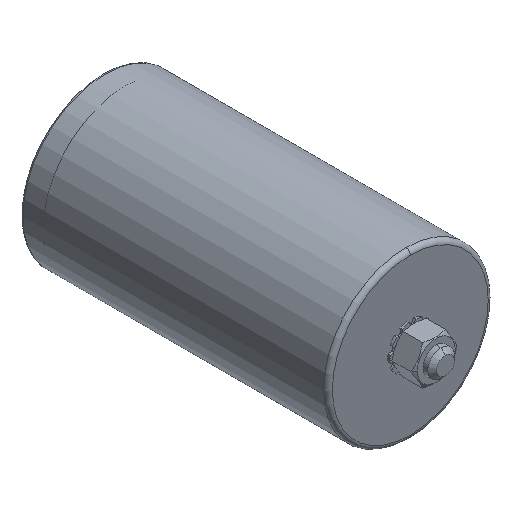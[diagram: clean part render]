
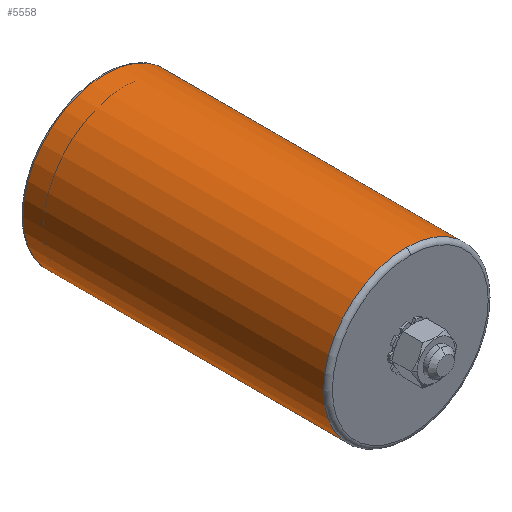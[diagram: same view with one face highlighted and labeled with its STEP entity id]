
A CAD part, isometric view. The second image highlights one B-rep face of the part: STEP entity #5558.
In plain terms, the highlighted cylindrical face has radius 37.5 mm (diameter 75 mm), a partial arc.
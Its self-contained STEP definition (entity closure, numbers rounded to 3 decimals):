
#185 = ORIENTED_EDGE ( 'NONE', *, *, #3175, .T. ) ;
#347 = DIRECTION ( 'NONE',  ( 0., 1., 0. ) ) ;
#396 = VERTEX_POINT ( 'NONE', #4683 ) ;
#1095 = CARTESIAN_POINT ( 'NONE',  ( 0., -129.645, 0. ) ) ;
#1205 = DIRECTION ( 'NONE',  ( 0., 1., 0. ) ) ;
#1214 = CARTESIAN_POINT ( 'NONE',  ( 0., 7.355, 0. ) ) ;
#1249 = DIRECTION ( 'NONE',  ( 0., 1., 0. ) ) ;
#1371 = CIRCLE ( 'NONE', #7437, 37.5 ) ;
#1518 = ORIENTED_EDGE ( 'NONE', *, *, #6113, .T. ) ;
#1708 = EDGE_CURVE ( 'NONE', #6337, #6965, #4797, .T. ) ;
#2126 = VERTEX_POINT ( 'NONE', #2171 ) ;
#2171 = CARTESIAN_POINT ( 'NONE',  ( -24.105, 7.355, -28.727 ) ) ;
#3019 = ORIENTED_EDGE ( 'NONE', *, *, #4970, .T. ) ;
#3164 = DIRECTION ( 'NONE',  ( 0., 0., -1. ) ) ;
#3175 = EDGE_CURVE ( 'NONE', #396, #8170, #8251, .T. ) ;
#3702 = DIRECTION ( 'NONE',  ( 0., 1., 0. ) ) ;
#3818 = AXIS2_PLACEMENT_3D ( 'NONE', #5709, #3702, #8283 ) ;
#4183 = CARTESIAN_POINT ( 'NONE',  ( -24.105, -1.645, -28.727 ) ) ;
#4361 = CIRCLE ( 'NONE', #5485, 37.5 ) ;
#4651 = LINE ( 'NONE', #4183, #7885 ) ;
#4683 = CARTESIAN_POINT ( 'NONE',  ( 24.105, -129.645, 28.727 ) ) ;
#4797 = CIRCLE ( 'NONE', #5655, 37.5 ) ;
#4939 = DIRECTION ( 'NONE',  ( 0., 1., 0. ) ) ;
#4970 = EDGE_CURVE ( 'NONE', #6965, #396, #4361, .T. ) ;
#5046 = CARTESIAN_POINT ( 'NONE',  ( 24.105, -1.645, 28.727 ) ) ;
#5079 = CARTESIAN_POINT ( 'NONE',  ( 0., -129.645, 0. ) ) ;
#5085 = FACE_OUTER_BOUND ( 'NONE', #5196, .T. ) ;
#5196 = EDGE_LOOP ( 'NONE', ( #7698, #5252, #3019, #185, #1518 ) ) ;
#5252 = ORIENTED_EDGE ( 'NONE', *, *, #1708, .T. ) ;
#5485 = AXIS2_PLACEMENT_3D ( 'NONE', #1095, #4939, #6170 ) ;
#5558 = ADVANCED_FACE ( 'NONE', ( #5085 ), #7200, .T. ) ;
#5611 = CARTESIAN_POINT ( 'NONE',  ( 24.105, 7.355, 28.727 ) ) ;
#5655 = AXIS2_PLACEMENT_3D ( 'NONE', #5079, #1249, #3164 ) ;
#5709 = CARTESIAN_POINT ( 'NONE',  ( 0., -1.645, 0. ) ) ;
#6113 = EDGE_CURVE ( 'NONE', #8170, #2126, #1371, .T. ) ;
#6170 = DIRECTION ( 'NONE',  ( 0., 0., -1. ) ) ;
#6227 = VECTOR ( 'NONE', #1205, 1000. ) ;
#6337 = VERTEX_POINT ( 'NONE', #8186 ) ;
#6379 = CARTESIAN_POINT ( 'NONE',  ( 0., -129.645, 37.5 ) ) ;
#6903 = DIRECTION ( 'NONE',  ( 0., -1., 0. ) ) ;
#6965 = VERTEX_POINT ( 'NONE', #6379 ) ;
#7200 = CYLINDRICAL_SURFACE ( 'NONE', #3818, 37.5 ) ;
#7437 = AXIS2_PLACEMENT_3D ( 'NONE', #1214, #6903, #7587 ) ;
#7587 = DIRECTION ( 'NONE',  ( -0.643, 0., -0.766 ) ) ;
#7698 = ORIENTED_EDGE ( 'NONE', *, *, #8075, .F. ) ;
#7885 = VECTOR ( 'NONE', #347, 1000. ) ;
#8075 = EDGE_CURVE ( 'NONE', #6337, #2126, #4651, .T. ) ;
#8170 = VERTEX_POINT ( 'NONE', #5611 ) ;
#8186 = CARTESIAN_POINT ( 'NONE',  ( -24.105, -129.645, -28.727 ) ) ;
#8251 = LINE ( 'NONE', #5046, #6227 ) ;
#8283 = DIRECTION ( 'NONE',  ( 0.643, 0., 0.766 ) ) ;
